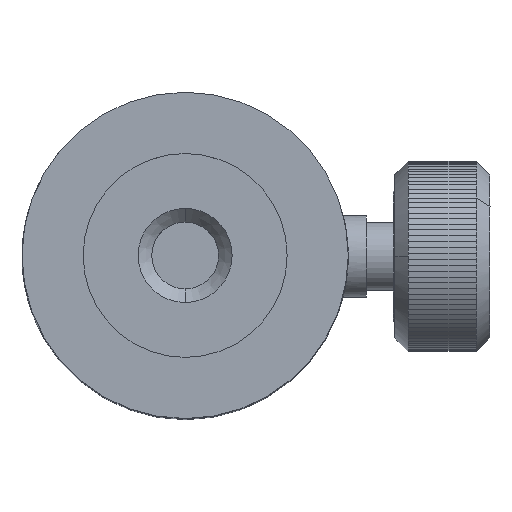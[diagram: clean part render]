
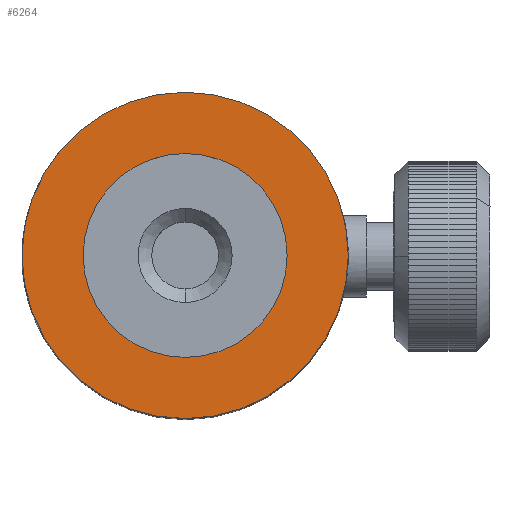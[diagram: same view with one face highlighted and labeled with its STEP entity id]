
A CAD part, top view. The second image highlights one B-rep face of the part: STEP entity #6264.
In plain terms, the highlighted planar face has unit normal (0, 0, 1).
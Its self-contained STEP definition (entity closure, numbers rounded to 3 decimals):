
#78 = DIRECTION ( 'NONE',  ( -1., 0., 0. ) ) ;
#79 = DIRECTION ( 'NONE',  ( 0., 0., -1. ) ) ;
#80 = CARTESIAN_POINT ( 'NONE',  ( 24., 0., 50. ) ) ;
#81 = AXIS2_PLACEMENT_3D ( 'NONE', #80, #79, #78 ) ;
#82 = CIRCLE ( 'NONE', #81, 12. ) ;
#1168 = CIRCLE ( 'NONE', #1180, 7.5 ) ;
#1180 = AXIS2_PLACEMENT_3D ( 'NONE', #1284, #1230, #1231 ) ;
#1213 = PLANE ( 'NONE',  #1283 ) ;
#1214 = FACE_BOUND ( 'NONE', #6442, .T. ) ;
#1230 = DIRECTION ( 'NONE',  ( 0., 0., 1. ) ) ;
#1231 = DIRECTION ( 'NONE',  ( 1., 0., 0. ) ) ;
#1233 = FACE_OUTER_BOUND ( 'NONE', #6438, .T. ) ;
#1280 = DIRECTION ( 'NONE',  ( -1., 0., 0. ) ) ;
#1281 = DIRECTION ( 'NONE',  ( 0., 0., -1. ) ) ;
#1282 = CARTESIAN_POINT ( 'NONE',  ( 24., 0., 50. ) ) ;
#1283 = AXIS2_PLACEMENT_3D ( 'NONE', #1282, #1281, #1280 ) ;
#1284 = CARTESIAN_POINT ( 'NONE',  ( 24., 0., 50. ) ) ;
#4122 = CARTESIAN_POINT ( 'NONE',  ( 36., 0., 50. ) ) ;
#4123 = CARTESIAN_POINT ( 'NONE',  ( 12., 0., 50. ) ) ;
#4124 = DIRECTION ( 'NONE',  ( -1., 0., 0. ) ) ;
#4125 = DIRECTION ( 'NONE',  ( 0., 0., -1. ) ) ;
#4126 = CARTESIAN_POINT ( 'NONE',  ( 24., 0., 50. ) ) ;
#4127 = AXIS2_PLACEMENT_3D ( 'NONE', #4126, #4125, #4124 ) ;
#4128 = CIRCLE ( 'NONE', #4127, 12. ) ;
#4602 = VERTEX_POINT ( 'NONE', #8441 ) ;
#4604 = EDGE_CURVE ( 'NONE', #4602, #4605, #8360, .T. ) ;
#4605 = VERTEX_POINT ( 'NONE', #8355 ) ;
#4703 = EDGE_CURVE ( 'NONE', #4704, #4705, #4128, .T. ) ;
#4704 = VERTEX_POINT ( 'NONE', #4123 ) ;
#4705 = VERTEX_POINT ( 'NONE', #4122 ) ;
#6255 = EDGE_CURVE ( 'NONE', #4605, #4602, #1168, .T. ) ;
#6264 = ADVANCED_FACE ( 'NONE', ( #1233, #1214 ), #1213, .F. ) ;
#6438 = EDGE_LOOP ( 'NONE', ( #6439, #6440 ) ) ;
#6439 = ORIENTED_EDGE ( 'NONE', *, *, #4703, .F. ) ;
#6440 = ORIENTED_EDGE ( 'NONE', *, *, #6441, .F. ) ;
#6441 = EDGE_CURVE ( 'NONE', #4705, #4704, #82, .T. ) ;
#6442 = EDGE_LOOP ( 'NONE', ( #6443, #6444 ) ) ;
#6443 = ORIENTED_EDGE ( 'NONE', *, *, #6255, .F. ) ;
#6444 = ORIENTED_EDGE ( 'NONE', *, *, #4604, .F. ) ;
#8355 = CARTESIAN_POINT ( 'NONE',  ( 31.5, 0., 50. ) ) ;
#8356 = DIRECTION ( 'NONE',  ( 1., 0., 0. ) ) ;
#8357 = DIRECTION ( 'NONE',  ( 0., 0., 1. ) ) ;
#8358 = CARTESIAN_POINT ( 'NONE',  ( 24., 0., 50. ) ) ;
#8359 = AXIS2_PLACEMENT_3D ( 'NONE', #8358, #8357, #8356 ) ;
#8360 = CIRCLE ( 'NONE', #8359, 7.5 ) ;
#8441 = CARTESIAN_POINT ( 'NONE',  ( 16.5, 0., 50. ) ) ;
